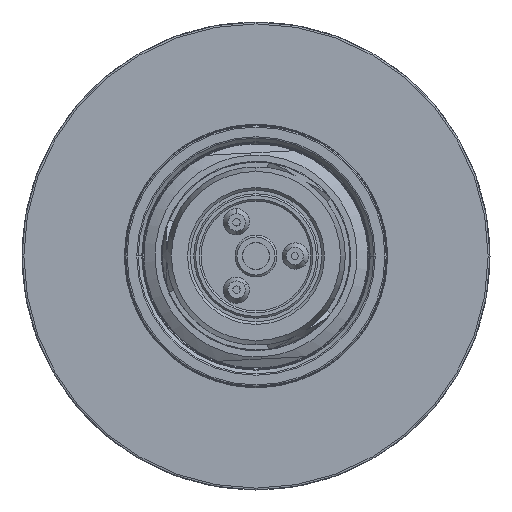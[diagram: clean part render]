
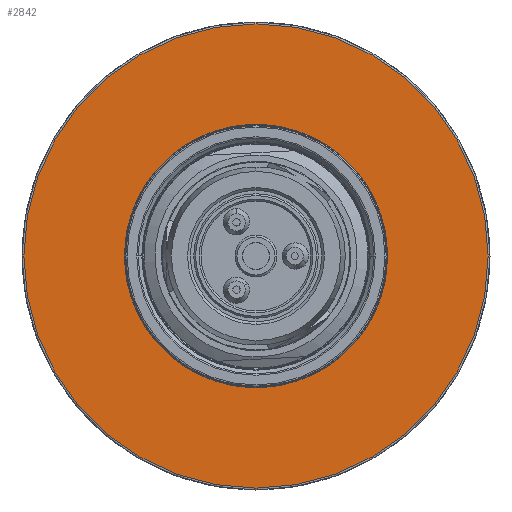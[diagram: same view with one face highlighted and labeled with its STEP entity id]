
A CAD part, front view. The second image highlights one B-rep face of the part: STEP entity #2842.
In plain terms, the highlighted planar face has unit normal (0, -1, 0).
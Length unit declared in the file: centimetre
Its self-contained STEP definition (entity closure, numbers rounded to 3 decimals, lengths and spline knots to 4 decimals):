
#297=FACE_BOUND('',#8252,.T.);
#2842=ADVANCED_FACE('',(#5412,#297),#41797,.T.);
#5412=FACE_OUTER_BOUND('',#8251,.T.);
#8251=EDGE_LOOP('',(#21360,#21361));
#8252=EDGE_LOOP('',(#21362,#21363));
#21360=ORIENTED_EDGE('',*,*,#28020,.T.);
#21361=ORIENTED_EDGE('',*,*,#28066,.T.);
#21362=ORIENTED_EDGE('',*,*,#28068,.F.);
#21363=ORIENTED_EDGE('',*,*,#28016,.F.);
#28016=EDGE_CURVE('',#39654,#39655,#34618,.T.);
#28020=EDGE_CURVE('',#39656,#39657,#34622,.T.);
#28066=EDGE_CURVE('',#39657,#39656,#34662,.T.);
#28068=EDGE_CURVE('',#39655,#39654,#34664,.T.);
#34618=TRIMMED_CURVE($,#35331,(#101340),(#101341),.T.,.CARTESIAN.);
#34622=TRIMMED_CURVE($,#35335,(#101352),(#101353),.T.,.CARTESIAN.);
#34662=TRIMMED_CURVE($,#35375,(#101484),(#101485),.T.,.CARTESIAN.);
#34664=TRIMMED_CURVE($,#35377,(#101490),(#101491),.T.,.CARTESIAN.);
#35331=CIRCLE('',#45263,1.285);
#35335=CIRCLE('',#45267,2.47);
#35375=CIRCLE('',#45307,2.47);
#35377=CIRCLE('',#45309,1.285);
#39654=VERTEX_POINT('',#101233);
#39655=VERTEX_POINT('',#101234);
#39656=VERTEX_POINT('',#101235);
#39657=VERTEX_POINT('',#101236);
#41797=PLANE('',#45229);
#45229=AXIS2_PLACEMENT_3D('',#99824,#48849,$);
#45263=AXIS2_PLACEMENT_3D($,#101339,#48905,#48906);
#45267=AXIS2_PLACEMENT_3D($,#101351,#48913,#48914);
#45307=AXIS2_PLACEMENT_3D($,#101483,#48993,#48994);
#45309=AXIS2_PLACEMENT_3D($,#101489,#48997,#48998);
#48849=DIRECTION('',(0.,-1.,0.));
#48905=DIRECTION('',(0.,-1.,0.));
#48906=DIRECTION('',(1.,0.,0.));
#48913=DIRECTION('',(0.,-1.,0.));
#48914=DIRECTION('',(1.,0.,0.));
#48993=DIRECTION('',(0.,-1.,0.));
#48994=DIRECTION('',(-1.,0.,0.));
#48997=DIRECTION('',(0.,-1.,0.));
#48998=DIRECTION('',(-1.,0.,0.));
#99824=CARTESIAN_POINT('',(-2.9725,0.04,-2.9725));
#101233=CARTESIAN_POINT('',(1.285,0.04,0.));
#101234=CARTESIAN_POINT('',(-1.285,0.04,0.));
#101235=CARTESIAN_POINT('',(2.47,0.04,0.));
#101236=CARTESIAN_POINT('',(-2.47,0.04,0.));
#101339=CARTESIAN_POINT('',(0.,0.04,0.));
#101340=CARTESIAN_POINT('',(1.285,0.04,0.));
#101341=CARTESIAN_POINT('',(-1.285,0.04,0.));
#101351=CARTESIAN_POINT('',(0.,0.04,0.));
#101352=CARTESIAN_POINT('',(2.47,0.04,0.));
#101353=CARTESIAN_POINT('',(-2.47,0.04,0.));
#101483=CARTESIAN_POINT('',(0.,0.04,0.));
#101484=CARTESIAN_POINT('',(-2.47,0.04,0.));
#101485=CARTESIAN_POINT('',(2.47,0.04,0.));
#101489=CARTESIAN_POINT('',(0.,0.04,0.));
#101490=CARTESIAN_POINT('',(-1.285,0.04,0.));
#101491=CARTESIAN_POINT('',(1.285,0.04,0.));
